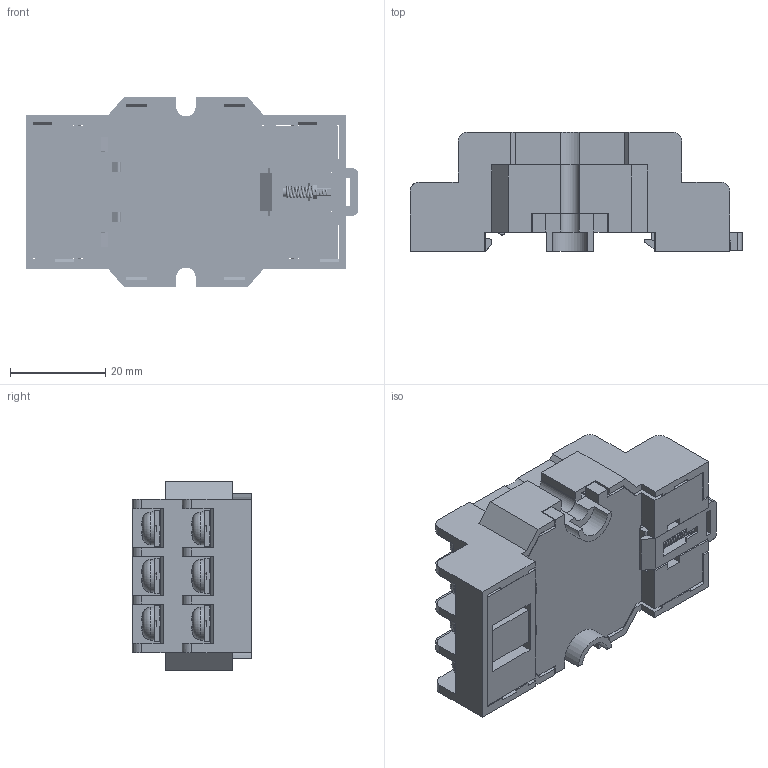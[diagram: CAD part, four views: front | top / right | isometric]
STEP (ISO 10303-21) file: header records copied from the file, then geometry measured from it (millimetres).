
FILE_DESCRIPTION(/* description */ (''),/* implementation_level */ '2;1');
FILE_NAME(/* name */ '13F-3Z-C3-ZP.stp',/* time_stamp */ '2019-01-02T14:29:04+08:00',/* author */ (''),/* organization */ (''),/* preprocessor_version */ 'ST-DEVELOPER v16.7',/* originating_system */ 'SIEMENS PLM Software NX 12.0',/* authorisation */ '');
FILE_SCHEMA (('AUTOMOTIVE_DESIGN { 1 0 10303 214 3 1 1 1 }'));
Products named in the file (11): HT7.730.091; HT7.730.092; HT7.730.093; 8X8; M3.5X5.5X7.5X6.8; HT7.730.090; 0.4X2.5X10X9.5; HT8.205.016; HT7.814.014; HT7.810.035; 13F-3Z-C3-ZP
Assembly tree (37 placements, depth 2):
  13F-3Z-C3-ZP
    HT7.810.035
    HT7.814.014
    HT8.205.016
    0.4X2.5X10X9.5
    HT7.730.090  x3
    M3.5X5.5X7.5X6.8  x11
    8X8  x11
    HT7.730.093  x2
    HT7.730.092  x3
    HT7.730.091  x3
Bounding box: 69.75 x 25.1 x 39.9 mm (x, y, z)
Volume: 25878.1 mm3; surface area: 41350.1 mm2
Topology: 37 solids, 37 shells, 4306 faces, 11992 edges, 7672 vertices
Faces by surface type: plane 2617, cylinder 1034, bspline 288, extrusion 213, sphere 110, torus 27, cone 17
Full cylindrical faces by diameter (mm): 2 x1, 2.5 x99, 3 x22, 3.9 x14, 4 x11, 6.898 x11
Entity records: 67285 total; most frequent: CARTESIAN_POINT 18404, ORIENTED_EDGE 9918, DIRECTION 8454, EDGE_CURVE 4959, VECTOR 4054, LINE 3976, VERTEX_POINT 3285, AXIS2_PLACEMENT_3D 2200
